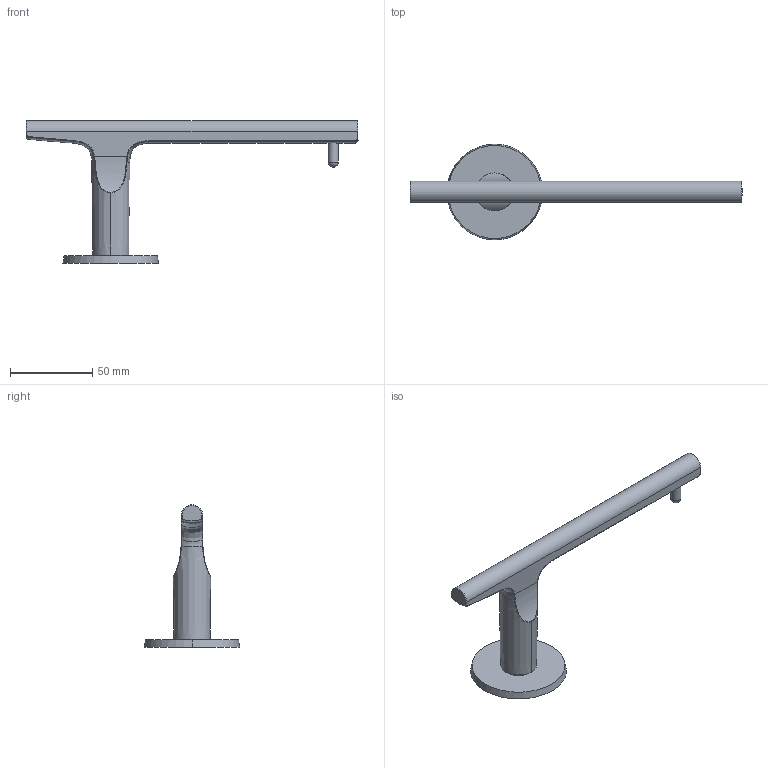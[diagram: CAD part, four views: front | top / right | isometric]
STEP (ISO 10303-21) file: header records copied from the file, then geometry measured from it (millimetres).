
FILE_DESCRIPTION((''),'2;1');
FILE_NAME('DIS_3D_L445','2026-02-02T12:21:44',('Luca'),(''),'CREO PARAMETRIC BY PTC INC, 2025010','CREO PARAMETRIC BY PTC INC, 2025010','');
FILE_SCHEMA(('AUTOMOTIVE_DESIGN { 1 0 10303 214 1 1 1 1 }'));
Length unit declared in the file: millimetre
Products named in the file (1): DIS_3D_L445
Bounding box: 201.4 x 58 x 86.5 mm (x, y, z)
Volume: 68051.9 mm3; surface area: 19734.7 mm2
Topology: 1 solids, 1 shells, 62 faces, 148 edges, 89 vertices
Faces by surface type: bspline 22, cylinder 17, plane 7, cone 6, torus 5, extrusion 3, sphere 2
Entity records: 6343 total; most frequent: CARTESIAN_POINT 4496, ORIENTED_EDGE 292, DIRECTION 216, EDGE_CURVE 146, AXIS2_PLACEMENT_3D 89, VERTEX_POINT 89, B_SPLINE_CURVE_WITH_KNOTS 72, EDGE_LOOP 65
